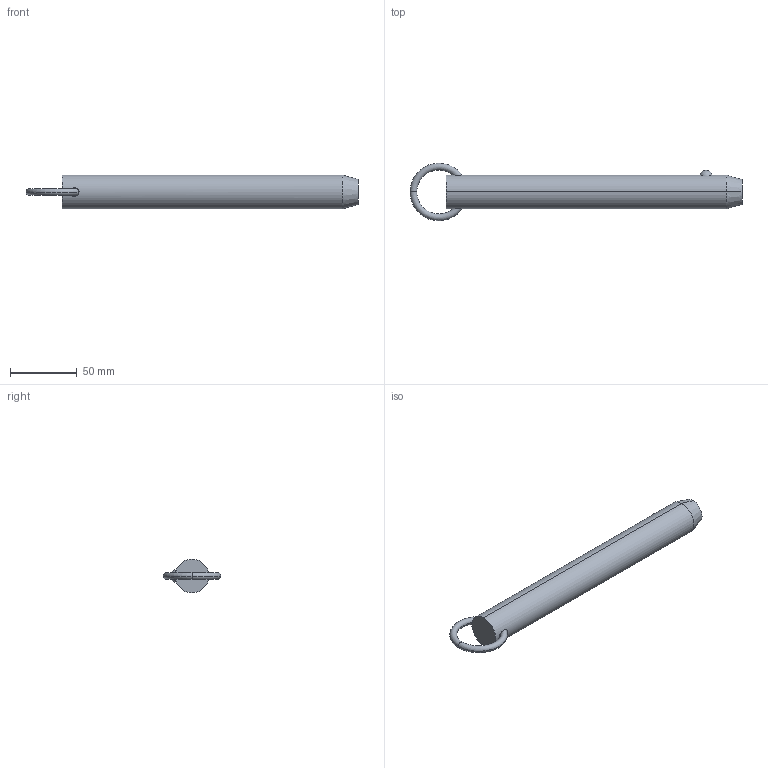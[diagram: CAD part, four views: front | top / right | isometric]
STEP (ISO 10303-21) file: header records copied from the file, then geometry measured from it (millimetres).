
FILE_DESCRIPTION (( 'STEP AP203' ), '1' );
FILE_NAME ('33010.W1070.step', '2024-11-01T10:48:45', ( '' ), ( '' ), 'SwSTEP 2.0', 'SolidWorks 2019', '' );
FILE_SCHEMA (( 'CONFIG_CONTROL_DESIGN' ));
Length unit declared in the file: millimetre
Products named in the file (3): Part2_33010.W1070; 33010.W1070; Part1_33010.W1070
Assembly tree (2 placements, depth 2):
  33010.W1070
    Part1_33010.W1070
    Part2_33010.W1070
Bounding box: 249.38 x 43.18 x 25.4 mm (x, y, z)
Volume: 112951.5 mm3; surface area: 20859.3 mm2
Topology: 2 solids, 2 shells, 18 faces, 37 edges, 22 vertices
Faces by surface type: torus 8, plane 4, sphere 2, cone 2, cylinder 2
Entity records: 975 total; most frequent: CARTESIAN_POINT 280, DIRECTION 100, ORIENTED_EDGE 74, AXIS2_PLACEMENT_3D 48, EDGE_CURVE 37, PERSON_AND_ORGANIZATION 26, CIRCLE 25, VERTEX_POINT 22
